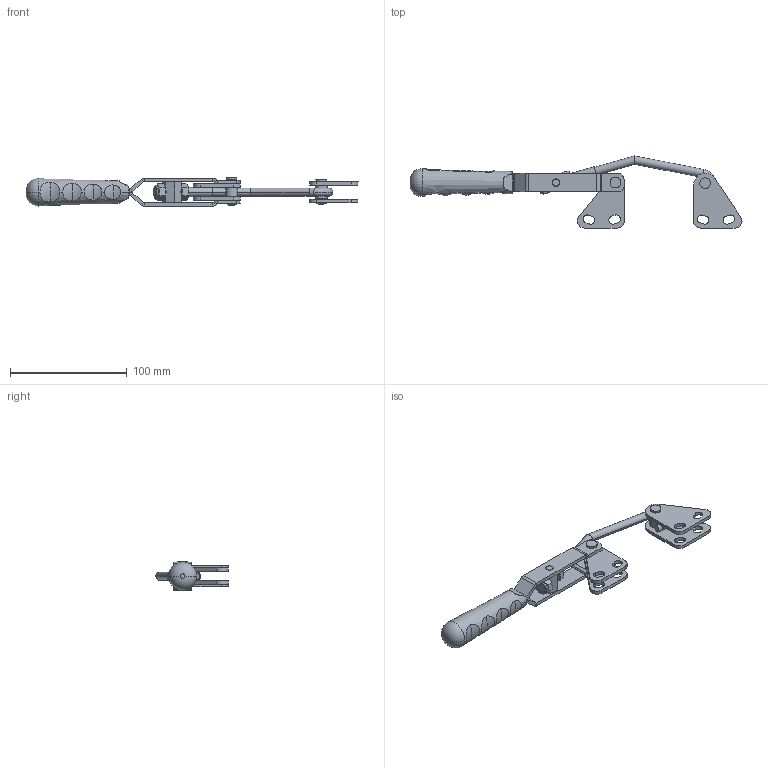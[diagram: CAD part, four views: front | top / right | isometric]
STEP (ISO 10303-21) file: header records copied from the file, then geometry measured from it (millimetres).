
FILE_DESCRIPTION (( 'STEP AP203' ), '1' );
FILE_NAME ('13308_D.STEP', '2022-12-02T05:48:41', ( '' ), ( '' ), 'SwSTEP 2.0', 'SolidWorks 2023', '' );
FILE_SCHEMA (( 'CONFIG_CONTROL_DESIGN' ));
Length unit declared in the file: millimetre
Products named in the file (14): 13308_M8 Somun_Varsayılan; 13308 KANCA TUTUCU_Varsayılan; 13308 HAREKET kOLU_Varsayılan; 13308_D; YENİ_C90.step_Varsayılan; Aynalama13308 HAREKET kOLU_Varsayılan; GÖVDE_Varsayılan; 6x22_5_PERÇİN_Varsayılan; 6x24_5_PERÇİN_Varsayılan; 13308_Burc_10x6x8_Varsayılan; 13308_M8 FİBERLİ SOMUN_Varsayılan; 13308 HK GÖVDE_Varsayılan; 13308_C_KANCA_Varsayılan; 13308_Burc_10x6x12_Varsayılan
Assembly tree (13 placements, depth 2):
  13308_D
    13308 HK GÖVDE_Varsayılan
    13308 HAREKET kOLU_Varsayılan
    Aynalama13308 HAREKET kOLU_Varsayılan
    13308 KANCA TUTUCU_Varsayılan
    13308_M8 Somun_Varsayılan
    13308_M8 FİBERLİ SOMUN_Varsayılan
    13308_C_KANCA_Varsayılan
    6x24_5_PERÇİN_Varsayılan
    13308_Burc_10x6x8_Varsayılan
    GÖVDE_Varsayılan
    6x22_5_PERÇİN_Varsayılan
    13308_Burc_10x6x12_Varsayılan
    YENİ_C90.step_Varsayılan
Bounding box: 284.86 x 61.89 x 24.2 mm (x, y, z)
Volume: 66626.1 mm3; surface area: 44736.9 mm2
Topology: 15 solids, 15 shells, 535 faces, 1318 edges, 829 vertices
Faces by surface type: plane 301, cylinder 156, cone 38, torus 28, bspline 8, sphere 4
Entity records: 18370 total; most frequent: CARTESIAN_POINT 4026, DIRECTION 2736, ORIENTED_EDGE 2636, EDGE_CURVE 1318, AXIS2_PLACEMENT_3D 959, VERTEX_POINT 829, LINE 818, VECTOR 818
